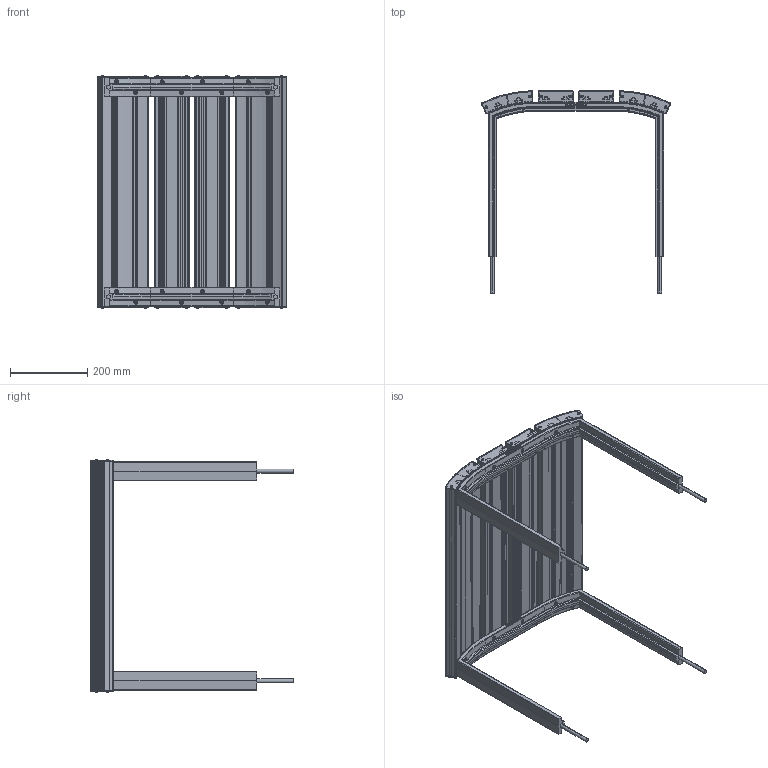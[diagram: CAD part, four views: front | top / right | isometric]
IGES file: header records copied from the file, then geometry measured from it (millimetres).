
Start section: SolidWorks IGES file using analytic representation for surfaces
Global section: file name: C:\SANTACOLE_PDM\Proyectos Catálogo\PROD-P06-035 -- NEOROMÁNTICO LIVIANO\6_Técnico comercial\3D WEB\NEOROMANTICO BANQUETA 100% ALUMINIO 0.60M.IGS; native system: SolidWorks 2013; preprocessor: SolidWorks 2013; author: MarioV; date: 150324.161202; units: millimetre
Bounding box: 491.14 x 524.97 x 604.33 mm (x, y, z)
Volume: 3854012.7 mm3; surface area: 2222067.3 mm2
Topology: 66 solids, 66 shells, 4236 faces, 11714 edges, 7608 vertices
Faces by surface type: revolution 1838, plane 1742, bspline 656
